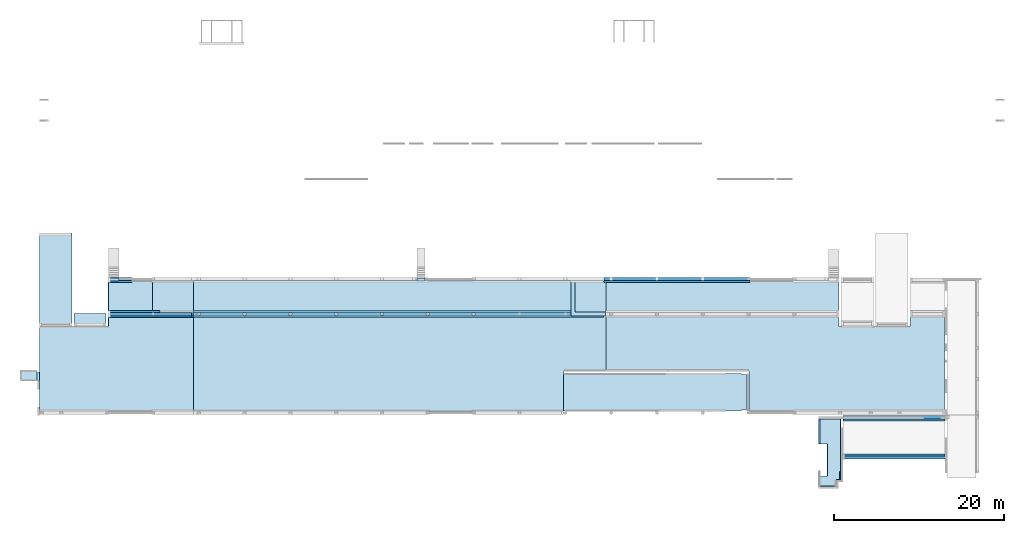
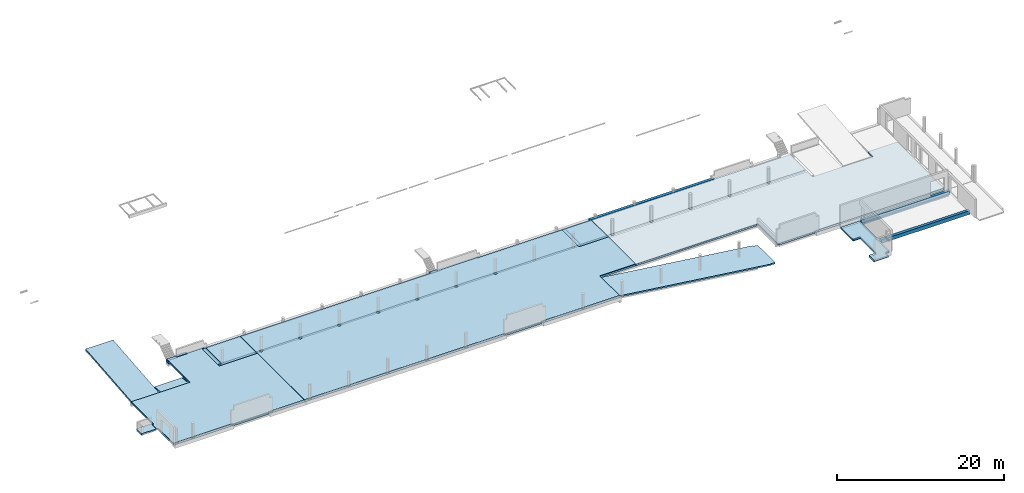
# One storey, part 4 of 9: 20 slabs, 7 beams, 9 openings.
"""IFC2X3 building model written with IfcOpenShell, lengths in millimetres."""

import ifcopenshell
import ifcopenshell.guid

model = None  # the IFC model being written
_history = None  # IfcOwnerHistory: only IFC2X3 demands one
_inside = {}  # id of a spatial element -> (the spatial element, [elements in it])
_under = {}  # id of a project, library or spatial element -> (it, [spatial elements below it])
_declared = {}  # id of a project -> (the project, [libraries it declares])
_typed = {}  # id of a type object -> (the type object, [elements of that type])
_made_of = {}  # id of a material, layer set ... -> (it, [elements and type objects made of it])


def new_model(schema):
    """Start an empty IFC model of exactly this schema.

    Asked for "IFC4X3", IfcOpenShell would pick the latest addendum, in which some entities
    have other attributes; the version numbers below select the first issue.
    IFC2X3 requires an IfcOwnerHistory on every rooted entity: one is made here for all.
    """
    global model, _history
    if schema == "IFC4X3":
        model = ifcopenshell.file(schema_version=(4, 3, 0, 0))
    else:
        model = ifcopenshell.file(schema=schema)
    _inside.clear()
    _under.clear()
    _declared.clear()
    _typed.clear()
    _made_of.clear()
    _history = None
    if model.schema == "IFC2X3":
        org = make("IfcOrganization", Name="unknown")
        user = make(
            "IfcPersonAndOrganization",
            ThePerson=make("IfcPerson", FamilyName="unknown"),
            TheOrganization=org,
        )
        app = make(
            "IfcApplication",
            ApplicationDeveloper=org,
            Version="unknown",
            ApplicationFullName="unknown",
            ApplicationIdentifier="unknown",
        )
        _history = make(
            "IfcOwnerHistory",
            OwningUser=user,
            OwningApplication=app,
            ChangeAction="ADDED",
            CreationDate=0,
        )
    return model


def make(cls, **values):
    """One entity of the class cls with the attributes given. An attribute that is None is left unset."""
    return model.create_entity(
        cls, **{name: value for name, value in values.items() if value is not None}
    )


def entity(cls, *values):
    """Any entity or typed value of the class cls, its attributes in the order of the schema. None: left unset."""
    e = model.create_entity(cls)
    for i, value in enumerate(values):
        if value is not None:
            e[i] = value
    return e


def rooted(cls, **values):
    """An entity with a GlobalId (a new one), such as an element, a storey or a relation."""
    return make(cls, GlobalId=ifcopenshell.guid.new(), OwnerHistory=_history, **values)


def si_unit(unit_type, name, prefix=None):
    """IfcSIUnit, for example si_unit("LENGTHUNIT", "METRE", prefix="MILLI")."""
    return make("IfcSIUnit", UnitType=unit_type, Prefix=prefix, Name=name)


def converted_unit(unit_type, name, factor, base, dimensions=None, offset=None):
    """IfcConversionBasedUnit, such as the inch: factor (a typed value) times the base unit."""
    return make(
        "IfcConversionBasedUnit"
        if offset is None
        else "IfcConversionBasedUnitWithOffset",
        ConversionOffset=offset,
        Dimensions=None
        if dimensions is None
        else entity("IfcDimensionalExponents", *dimensions),
        UnitType=unit_type,
        Name=name,
        ConversionFactor=make(
            "IfcMeasureWithUnit", ValueComponent=factor, UnitComponent=base
        ),
    )


def derived_unit(unit_type, elements):
    """IfcDerivedUnit: a product of units, each with its exponent."""
    return make(
        "IfcDerivedUnit",
        Elements=[
            make("IfcDerivedUnitElement", Unit=unit, Exponent=power)
            for unit, power in elements
        ],
        UnitType=unit_type,
    )


def assignment(units):
    """IfcUnitAssignment: the units of a project."""
    return None if units is None else make("IfcUnitAssignment", Units=units)


def point(xyz):
    """IfcCartesianPoint."""
    return None if xyz is None else make("IfcCartesianPoint", Coordinates=xyz)


def direction(xyz):
    """IfcDirection."""
    return None if xyz is None else make("IfcDirection", DirectionRatios=xyz)


def frame(location, z_axis=None, x_axis=None):
    """IfcAxis2Placement3D, a coordinate frame: its origin and axes. An axis left out is left unset."""
    return make(
        "IfcAxis2Placement3D",
        Location=point(location),
        Axis=direction(z_axis),
        RefDirection=direction(x_axis),
    )


def frame_2d(location, x_axis=None):
    """IfcAxis2Placement2D, a coordinate frame in the plane: its origin and x axis."""
    return make(
        "IfcAxis2Placement2D", Location=point(location), RefDirection=direction(x_axis)
    )


def origin():
    """The frame at (0, 0, 0) with its axes left unset."""
    return frame((0.0, 0.0, 0.0))


def origin_2d_with_axis():
    """The frame at (0, 0) in the plane with the x axis (1, 0) written out."""
    return frame_2d((0.0, 0.0), x_axis=(1.0, 0.0))


def place(relative_to, where):
    """IfcLocalPlacement: puts the frame where relative to a parent placement (None: the world)."""
    return make(
        "IfcLocalPlacement", PlacementRelTo=relative_to, RelativePlacement=where
    )


def context(
    kind, dimensions, precision=None, world=None, true_north=None, identifier=None
):
    """IfcGeometricRepresentationContext, for example the 3D "Model" context."""
    return make(
        "IfcGeometricRepresentationContext",
        ContextIdentifier=identifier,
        ContextType=kind,
        CoordinateSpaceDimension=dimensions,
        Precision=precision,
        WorldCoordinateSystem=world,
        TrueNorth=true_north,
    )


def subcontext(parent, identifier, kind, view, scale=None):
    """IfcGeometricRepresentationSubContext, for example "Body" below "Model"."""
    return make(
        "IfcGeometricRepresentationSubContext",
        ContextIdentifier=identifier,
        ContextType=kind,
        ParentContext=parent,
        TargetScale=scale,
        TargetView=view,
    )


def project(units=None, contexts=None):
    """IfcProject with its units and contexts."""
    return rooted(
        "IfcProject",
        Name="project",
        RepresentationContexts=contexts,
        UnitsInContext=assignment(units),
    )


def spatial(cls, under=None, at=None, **own):
    """A site, building, storey or space (cls), placed at a placement, below another one or the project."""
    s = rooted(cls, ObjectPlacement=at, **own)
    if under is not None:
        _under.setdefault(under.id(), (under, []))[1].append(s)
    return s


def polyline(points):
    """IfcPolyline through the points."""
    return make("IfcPolyline", Points=[point(p) for p in points])


def circle_curve(where, radius):
    """IfcCircle in the frame where."""
    return make("IfcCircle", Position=where, Radius=radius)


def parameter(value):
    """IfcParameterValue: where a trimmed curve begins or ends, as a parameter of its basis curve."""
    return model.create_entity("IfcParameterValue", value)


def trimmed(basis, trim1, trim2, sense, master):
    """IfcTrimmedCurve: the piece of a basis curve between two trims."""
    return make(
        "IfcTrimmedCurve",
        BasisCurve=basis,
        Trim1=trim1,
        Trim2=trim2,
        SenseAgreement=sense,
        MasterRepresentation=master,
    )


def segment(curve, same_sense, transition):
    """IfcCompositeCurveSegment."""
    return make(
        "IfcCompositeCurveSegment",
        Transition=transition,
        SameSense=same_sense,
        ParentCurve=curve,
    )


def composite_curve(segments, self_intersect=None):
    """IfcCompositeCurve: segments joined end to end."""
    return make("IfcCompositeCurve", Segments=segments, SelfIntersect=self_intersect)


def profile(cls, at=None, kind="AREA", **sizes):
    """A parametric profile (cls). Its sizes go by their IFC names, for example OverallWidth=200.0."""
    return make(cls, ProfileType=kind, Position=at, **sizes)


def rectangle(**sizes):
    """IfcRectangleProfileDef."""
    return profile("IfcRectangleProfileDef", **sizes)


def circle(**sizes):
    """IfcCircleProfileDef."""
    return profile("IfcCircleProfileDef", **sizes)


def outline(outer, holes=None, kind="AREA"):
    """IfcArbitraryClosedProfileDef: a profile drawn as a closed curve; with holes, ...WithVoids."""
    if holes is None:
        return make("IfcArbitraryClosedProfileDef", ProfileType=kind, OuterCurve=outer)
    return make(
        "IfcArbitraryProfileDefWithVoids",
        ProfileType=kind,
        OuterCurve=outer,
        InnerCurves=holes,
    )


def extrude(swept, where, along, depth):
    """IfcExtrudedAreaSolid: the profile swept, set in the frame where, extruded along a direction by depth."""
    return make(
        "IfcExtrudedAreaSolid",
        SweptArea=swept,
        Position=where,
        ExtrudedDirection=direction(along),
        Depth=depth,
    )


def clip(a, b, op="DIFFERENCE"):
    """IfcBooleanClippingResult: the solid a cut by the half space b."""
    return make(
        "IfcBooleanClippingResult", Operator=op, FirstOperand=a, SecondOperand=b
    )


def halfspace(plane, agree):
    """IfcHalfSpaceSolid: all space on one side of the plane z = 0 of the frame plane."""
    return make(
        "IfcHalfSpaceSolid",
        BaseSurface=make("IfcPlane", Position=plane),
        AgreementFlag=agree,
    )


def faces_of(points, faces, orient=None, outer=None):
    """IfcFace entities. A face is a list of loops; a loop is a list of indices into points, from 0.

    orient and outer hold one flag for each loop. By default every Orientation is true, the
    first loop of a face is its IfcFaceOuterBound and the others are IfcFaceBound.
    """
    made = []
    for i, loops in enumerate(faces):
        bounds = []
        for j, loop in enumerate(loops):
            is_outer = j == 0 if outer is None else outer[i][j]
            bounds.append(
                make(
                    "IfcFaceOuterBound" if is_outer else "IfcFaceBound",
                    Bound=make("IfcPolyLoop", Polygon=[points[k] for k in loop]),
                    Orientation=True if orient is None else orient[i][j],
                )
            )
        made.append(make("IfcFace", Bounds=bounds))
    return made


def faceted_brep(points, faces, orient=None, outer=None, voids=None):
    """IfcFacetedBrep: a solid bounded by flat faces; with voids (closed shells), ...WithVoids."""
    shared = [point(p) for p in points]
    hull = make("IfcClosedShell", CfsFaces=faces_of(shared, faces, orient, outer))
    if voids is None:
        return make("IfcFacetedBrep", Outer=hull)
    return make(
        "IfcFacetedBrepWithVoids",
        Outer=hull,
        Voids=[
            make(cls, CfsFaces=faces_of(shared, fs, o, b)) for cls, fs, o, b in voids
        ],
    )


def shape(context_of_items, identifier, shape_type, items):
    """IfcShapeRepresentation: the items that make up one representation, for example the "Body"."""
    return make(
        "IfcShapeRepresentation",
        ContextOfItems=context_of_items,
        RepresentationIdentifier=identifier,
        RepresentationType=shape_type,
        Items=items,
    )


def material(Name=None, Category=None):
    """IfcMaterial."""
    return make("IfcMaterial", Name=Name, Category=Category)


def layer(
    of_material, thickness, ventilated=None, Name=None, Category=None, Priority=None
):
    """IfcMaterialLayer: one layer of a wall or slab, of a material (None: an air gap)."""
    return make(
        "IfcMaterialLayer",
        Material=of_material,
        LayerThickness=thickness,
        IsVentilated=ventilated,
        Name=Name,
        Category=Category,
        Priority=Priority,
    )


def layer_set(layers, Name=None):
    """IfcMaterialLayerSet."""
    return make("IfcMaterialLayerSet", MaterialLayers=layers, LayerSetName=Name)


def layer_usage(for_layer_set, set_direction, sense, offset, extent=None):
    """IfcMaterialLayerSetUsage: how a layer set lies in its element."""
    return make(
        "IfcMaterialLayerSetUsage",
        ForLayerSet=for_layer_set,
        LayerSetDirection=set_direction,
        DirectionSense=sense,
        OffsetFromReferenceLine=offset,
        ReferenceExtent=extent,
    )


def made_of(thing, what):
    """Note that an element or type object is made of a material, layer set ...; save() writes the relation."""
    if what is not None:
        _made_of.setdefault(what.id(), (what, []))[1].append(thing)
    return thing


def type_object(cls, material=None, **own):
    """A type object (cls), such as IfcWallType, which elements share."""
    return made_of(rooted(cls, **own), material)


def element(
    cls,
    number,
    at=None,
    inside=None,
    cuts=None,
    type_object=None,
    material=None,
    context=None,
    identifier="Body",
    shape_type=None,
    held_by="IfcProductDefinitionShape",
    body=None,
    shapes=None,
    **own,
):
    """One element of the class cls, such as IfcWall. Its Tag is "e" and its number.

    at: its placement. inside: the storey or other place that contains it. cuts: it is an
    opening in that element (IfcRelVoidsElement). A single representation is given by context,
    identifier, shape_type and body (its items); several are given by shapes. held_by: the class
    of the entity that holds the representations. save() writes the other relations.
    """
    e = rooted(cls, Tag="e%d" % number, ObjectPlacement=at, **own)
    if body is not None:
        shapes = [shape(context, identifier, shape_type, body)]
    if shapes is not None:
        e.Representation = make(held_by, Representations=shapes)
    if inside is not None:
        _inside.setdefault(inside.id(), (inside, []))[1].append(e)
    if cuts is not None:
        rooted(
            "IfcRelVoidsElement", RelatingBuildingElement=cuts, RelatedOpeningElement=e
        )
    if type_object is not None:
        _typed.setdefault(type_object.id(), (type_object, []))[1].append(e)
    return made_of(e, material)


def aggregate(whole, parts):
    """IfcRelAggregates: a whole, such as a stair, and the parts it consists of."""
    return rooted("IfcRelAggregates", RelatingObject=whole, RelatedObjects=parts)


def save(model, path):
    """Write the relations noted so far, then the file.

    IfcRelAggregates (storeys below a building ...), IfcRelContainedInSpatialStructure (elements
    in a storey), IfcRelDefinesByType, IfcRelAssociatesMaterial and IfcRelDeclares: one each for
    every whole, place, type object, material and project.
    """
    for whole, parts in _under.values():
        aggregate(whole, parts)
    for where, things in _inside.values():
        rooted(
            "IfcRelContainedInSpatialStructure",
            RelatedElements=things,
            RelatingStructure=where,
        )
    for kind, things in _typed.values():
        rooted("IfcRelDefinesByType", RelatedObjects=things, RelatingType=kind)
    for what, things in _made_of.values():
        rooted("IfcRelAssociatesMaterial", RelatedObjects=things, RelatingMaterial=what)
    for by, libraries in _declared.values():
        rooted("IfcRelDeclares", RelatingContext=by, RelatedDefinitions=libraries)
    model.write(path)


model = new_model("IFC2X3")

# Units and contexts
model_context = context("Model", 3, precision=0.01, world=origin(), true_north=direction((6.12303176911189e-17, 1.0)))
body_context = subcontext(model_context, "Body", "Model", "MODEL_VIEW")
ifc_project = project(units=[si_unit("LENGTHUNIT", "METRE", prefix="MILLI"), si_unit("AREAUNIT", "SQUARE_METRE"), si_unit("VOLUMEUNIT", "CUBIC_METRE"), converted_unit("PLANEANGLEUNIT", "DEGREE", entity("IfcRatioMeasure", 0.0174532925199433), si_unit("PLANEANGLEUNIT", "RADIAN"), dimensions=[0, 0, 0, 0, 0, 0, 0]), si_unit("MASSUNIT", "GRAM", prefix="KILO"), derived_unit("MASSDENSITYUNIT", [(si_unit("MASSUNIT", "GRAM", prefix="KILO"), 1), (si_unit("LENGTHUNIT", "METRE"), -3)]), si_unit("TIMEUNIT", "SECOND"), si_unit("FREQUENCYUNIT", "HERTZ"), si_unit("THERMODYNAMICTEMPERATUREUNIT", "DEGREE_CELSIUS"), derived_unit("THERMALTRANSMITTANCEUNIT", [(si_unit("MASSUNIT", "GRAM", prefix="KILO"), 1), (si_unit("THERMODYNAMICTEMPERATUREUNIT", "KELVIN"), -1), (si_unit("TIMEUNIT", "SECOND"), -3)]), derived_unit("VOLUMETRICFLOWRATEUNIT", [(si_unit("LENGTHUNIT", "METRE"), 3), (si_unit("TIMEUNIT", "SECOND"), -1)]), si_unit("ELECTRICCURRENTUNIT", "AMPERE"), si_unit("ELECTRICVOLTAGEUNIT", "VOLT"), si_unit("POWERUNIT", "WATT"), si_unit("FORCEUNIT", "NEWTON", prefix="KILO"), si_unit("ILLUMINANCEUNIT", "LUX"), si_unit("LUMINOUSFLUXUNIT", "LUMEN"), si_unit("LUMINOUSINTENSITYUNIT", "CANDELA"), derived_unit("USERDEFINED", [(si_unit("MASSUNIT", "GRAM", prefix="KILO"), -1), (si_unit("LENGTHUNIT", "METRE"), -2), (si_unit("TIMEUNIT", "SECOND"), 3), (si_unit("LUMINOUSFLUXUNIT", "LUMEN"), 1)]), derived_unit("LINEARVELOCITYUNIT", [(si_unit("LENGTHUNIT", "METRE"), 1), (si_unit("TIMEUNIT", "SECOND"), -1)]), si_unit("PRESSUREUNIT", "PASCAL"), derived_unit("USERDEFINED", [(si_unit("LENGTHUNIT", "METRE"), -2), (si_unit("MASSUNIT", "GRAM", prefix="KILO"), 1), (si_unit("TIMEUNIT", "SECOND"), -2)])], contexts=[model_context])

# Site, building, storey
site_placement = place(None, origin())
site = spatial("IfcSite", under=ifc_project, at=site_placement, Name="Default", CompositionType="ELEMENT")
building_placement = place(site_placement, origin())
building = spatial("IfcBuilding", under=site, at=building_placement, Name="niet gebruiken", CompositionType="ELEMENT")
storey_placement = place(building_placement, frame((0.0, 0.0, 2770.0)))
storey = spatial("IfcBuildingStorey", under=building, at=storey_placement, Name="00a eerste tussenverdieping", CompositionType="ELEMENT", Elevation=2770.00000000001)

# Beams
ifc_material_1 = material(Name="NLRS_h2_staal")
beam_type_1 = type_object("IfcBeamType", Name="NLRS_28.11_SF_WPB_stalen ligger hoekprofiel gelijkzijdig_gen:ligger gelijzijdig hoekprofiel LEQU_150x150x15", PredefinedType="BEAM")
beam_1_placement = place(storey_placement, frame((102632.5, 1300.0, 1430.0), z_axis=(0.0, 0.0, 1.0), x_axis=(0.0, 1.0, 0.0)))
element("IfcBeam", 1, at=beam_1_placement, inside=storey, type_object=beam_type_1, material=ifc_material_1, Name="NLRS_28.11_SF_WPB_stalen ligger hoekprofiel gelijkzijdig_gen:ligger gelijzijdig hoekprofiel LEQU_150x150x15", ObjectType="NLRS_28.11_SF_WPB_stalen ligger hoekprofiel gelijkzijdig_gen:ligger gelijzijdig hoekprofiel LEQU_150x150x15", context=body_context, shape_type="SweptSolid", body=[
    extrude(outline(composite_curve([segment(polyline([(-93.3333333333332, -56.6666666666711), (56.6666666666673, -56.6666666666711)]), True, "CONTINUOUS"), segment(polyline([(56.6666666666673, -56.6666666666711), (56.6666666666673, 93.3333333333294)]), True, "CONTINUOUS"), segment(polyline([(56.6666666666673, 93.3333333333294), (49.6666666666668, 93.3333333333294)]), True, "CONTINUOUS"), segment(trimmed(circle_curve(frame_2d((49.666666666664, 85.3333333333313), x_axis=(0.0, 1.0)), 7.99999999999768), [parameter(0.0)], [parameter(90.0000000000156)], True, "PARAMETER"), True, "CONTINUOUS"), segment(polyline([(41.6666666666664, 85.3333333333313), (41.6666666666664, -25.6666666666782)]), True, "CONTINUOUS"), segment(trimmed(circle_curve(frame_2d((25.6666666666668, -25.6666666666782), x_axis=(1.0, 0.0)), 15.9999999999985), [parameter(269.999999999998)], [parameter(0.0)], True, "PARAMETER"), False, "CONTINUOUS"), segment(polyline([(25.6666666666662, -41.6666666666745), (-85.3333333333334, -41.6666666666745)]), True, "CONTINUOUS"), segment(trimmed(circle_curve(frame_2d((-85.3333333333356, -49.6666666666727), x_axis=(0.0, 1.0)), 7.99999999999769), [parameter(0.0)], [parameter(90.0000000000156)], True, "PARAMETER"), True, "CONTINUOUS"), segment(polyline([(-93.3333333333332, -49.6666666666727), (-93.3333333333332, -56.6666666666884)]), True, "CONTINUOUS")], self_intersect=False)), frame((0.0, 14.1666666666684, 56.6666666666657), z_axis=(1.0, 0.0, 0.0), x_axis=(0.0, 0.0, -1.0)), (0.0, 0.0, 1.0), 940.000000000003),
])
ifc_material_2 = material(Name="NLRS_f2_beton prefab")
beam_type_2 = type_object("IfcBeamType", Name="NLRS_28.11_SF_WPB_prefabbeton balk enkele sponning_gen:600x540/200x200", PredefinedType="BEAM")
beam_2_placement = place(storey_placement, frame((16345.0, 24576.0, -530.0)))
element("IfcBeam", 2, at=beam_2_placement, inside=storey, type_object=beam_type_2, material=ifc_material_2, Name="NLRS_28.11_SF_WPB_prefabbeton balk enkele sponning_gen:600x540/200x200", ObjectType="NLRS_28.11_SF_WPB_prefabbeton balk enkele sponning_gen:600x540/200x200", context=body_context, shape_type="Brep", body=[
    faceted_brep([(0.0, 600.0, 0.0), (0.0, 0.0, 0.0), (0.0, 0.0, 200.0), (0.0, 200.0, 200.0), (0.0, 200.0, 390.0), (0.0, 600.0, 390.0), (2755.0, 200.0, 200.0), (2755.0, 0.0, 200.0), (2755.0, 0.0, 0.0), (2755.0, 600.0, 0.0), (2755.0, 600.0, 540.0), (2755.0, 200.0, 540.0), (2755.0, 200.0, 530.0), (2755.0, 200.0, 460.0), (1250.0, 600.0, 540.0), (1250.0, 200.0, 540.0), (1250.0, 200.0, 530.0), (1250.0, 200.0, 460.0), (1250.0, 200.0, 390.0), (1250.0, 600.0, 390.0)], [[[0, 1, 2, 3, 4, 5]], [[6, 7, 8, 9, 10, 11, 12, 13]], [[11, 10, 14, 15]], [[3, 6, 13, 12, 11, 15, 16, 17, 18, 4]], [[3, 2, 7, 6]], [[2, 1, 8, 7]], [[1, 0, 9, 8]], [[10, 9, 0, 5, 19, 14]], [[15, 14, 19, 18, 17, 16]], [[18, 19, 5, 4]]]),
])
beam_3_placement = place(storey_placement, frame((74750.0, 24576.0, -530.0)))
element("IfcBeam", 3, at=beam_3_placement, inside=storey, type_object=beam_type_2, material=ifc_material_2, Name="NLRS_28.11_SF_WPB_prefabbeton balk enkele sponning_gen:600x540/200x200", ObjectType="NLRS_28.11_SF_WPB_prefabbeton balk enkele sponning_gen:600x540/200x200", context=body_context, shape_type="Brep", body=[
    faceted_brep([(0.0, 600.0, 0.0), (0.0, 0.0, 0.0), (0.0, 0.0, 200.0), (0.0, 200.0, 200.0), (0.0, 200.0, 460.0), (0.0, 200.0, 530.0), (0.0, 200.0, 540.0), (0.0, 600.0, 540.0), (17250.0, 200.0, 200.0), (17250.0, 0.0, 200.0), (17250.0, 0.0, 0.0), (17250.0, 600.0, 0.0), (17250.0, 600.0, 540.0), (17250.0, 200.0, 540.0), (17250.0, 200.0, 530.0), (17250.0, 250.0, 530.0), (17250.0, 250.0, 460.0), (17250.0, 200.0, 460.0), (16850.0, 200.0, 460.0), (16850.0, 200.0, 530.0), (16850.0, 250.0, 460.0), (16850.0, 250.0, 530.0)], [[[0, 1, 2, 3, 4, 5, 6, 7]], [[8, 9, 10, 11, 12, 13, 14, 15, 16, 17]], [[7, 6, 13, 12]], [[13, 6, 5, 4, 3, 8, 17, 18, 19, 14]], [[3, 2, 9, 8]], [[2, 1, 10, 9]], [[1, 0, 11, 10]], [[0, 7, 12, 11]], [[16, 20, 18, 17]], [[20, 21, 19, 18]], [[21, 20, 16, 15]], [[21, 15, 14, 19]]]),
])
beam_type_3 = type_object("IfcBeamType", Name="NLRS_28.11_SF_WPB_prefabbeton balk dubbele sponning_gen:800x460/200x260/200x260", PredefinedType="BEAM")
beam_4_placement = place(storey_placement, frame((26150.0, 20446.0, -530.0)))
element("IfcBeam", 4, at=beam_4_placement, inside=storey, type_object=beam_type_3, material=ifc_material_2, Name="NLRS_28.11_SF_WPB_prefabbeton balk dubbele sponning_gen:800x460/200x260/200x260", ObjectType="NLRS_28.11_SF_WPB_prefabbeton balk dubbele sponning_gen:800x460/200x260/200x260", context=body_context, shape_type="Brep", body=[
    faceted_brep([(0.0, 600.0, 460.0), (0.0, 600.0, 0.0), (0.0, 0.0, 0.0), (0.0, 0.0, 200.0), (0.0, 200.0, 200.0), (0.0, 200.0, 460.0), (48580.0, 600.0, 460.0), (48580.0, 200.0, 460.0), (48580.0, 200.0, 200.0), (48580.0, 0.0, 200.0), (48580.0, 0.0, 0.0), (48580.0, 800.0, 0.0), (48580.0, 800.0, 200.0), (48580.0, 600.0, 200.0), (44700.0, 200.0, 460.0), (220.0, 600.0, 200.0), (220.0, 600.0, 0.0), (220.0, 800.0, 200.0), (220.0, 800.0, 0.0)], [[[0, 1, 2, 3, 4, 5]], [[6, 7, 8, 9, 10, 11, 12, 13]], [[6, 0, 5, 14, 7]], [[3, 2, 10, 9]], [[6, 13, 15, 16, 1, 0]], [[13, 12, 17, 15]], [[5, 4, 8, 7, 14]], [[4, 3, 9, 8]], [[12, 11, 18, 17]], [[11, 10, 2, 1, 16, 18]], [[16, 15, 17, 18]]]),
])
beam_5_placement = place(storey_placement, frame((16345.0, 20446.0, -530.0)))
element("IfcBeam", 5, at=beam_5_placement, inside=storey, type_object=beam_type_3, material=ifc_material_2, Name="NLRS_28.11_SF_WPB_prefabbeton balk dubbele sponning_gen:800x460/200x260/200x260", ObjectType="NLRS_28.11_SF_WPB_prefabbeton balk dubbele sponning_gen:800x460/200x260/200x260", context=body_context, shape_type="Brep", body=[
    faceted_brep([(0.0, 600.0, 460.0), (0.0, 600.0, 200.0), (0.0, 800.0, 200.0), (0.0, 800.0, 0.0), (0.0, 0.0, 0.0), (0.0, 0.0, 200.0), (0.0, 200.0, 200.0), (0.0, 200.0, 460.0), (9785.0, 600.0, 0.0), (9785.0, 600.0, 460.0), (9785.0, 200.0, 460.0), (9785.0, 200.0, 200.0), (9785.0, 0.0, 200.0), (9785.0, 0.0, 0.0), (6105.0, 600.0, 0.0), (6105.0, 600.0, 200.0), (6105.0, 800.0, 200.0), (6105.0, 800.0, 0.0)], [[[0, 1, 2, 3, 4, 5, 6, 7]], [[8, 9, 10, 11, 12, 13]], [[9, 0, 7, 10]], [[5, 4, 13, 12]], [[1, 0, 9, 8, 14, 15]], [[2, 1, 15, 16]], [[7, 6, 11, 10]], [[6, 5, 12, 11]], [[3, 2, 16, 17]], [[4, 3, 17, 14, 8, 13]], [[15, 14, 17, 16]]]),
])
beam_type_4 = type_object("IfcBeamType", Name="NLRS_28.11_SF_WPB_prefabbeton balk enkele sponning_gen:600x530/200x200", PredefinedType="BEAM")
beam_6_placement = place(storey_placement, frame((102945.0, 8271.0, -530.0)))
element("IfcBeam", 6, at=beam_6_placement, inside=storey, type_object=beam_type_4, material=ifc_material_2, Name="NLRS_28.11_SF_WPB_prefabbeton balk enkele sponning_gen:600x530/200x200", ObjectType="NLRS_28.11_SF_WPB_prefabbeton balk enkele sponning_gen:600x530/200x200", context=body_context, shape_type="Brep", body=[
    faceted_brep([(0.0, 600.0, 0.0), (0.0, 0.0, 0.0), (0.0, 0.0, 200.0), (0.0, 200.0, 200.0), (0.0, 200.0, 460.0), (0.0, 200.0, 530.0), (0.0, 600.0, 530.0), (12255.0, 200.0, 530.0), (12255.0, 200.0, 200.0), (12255.0, 180.0, 200.0), (12255.0, 180.0, 0.0), (12255.0, 600.0, 0.0), (12255.0, 600.0, 530.0), (12005.0, 200.0, 530.0), (12005.0, 0.0, 200.0), (12005.0, 180.0, 200.0), (12005.0, 0.0, 0.0), (12005.0, 180.0, 0.0)], [[[0, 1, 2, 3, 4, 5, 6]], [[7, 8, 9, 10, 11, 12]], [[6, 5, 13, 7, 12]], [[8, 7, 13, 5, 4, 3]], [[3, 2, 14, 15, 9, 8]], [[2, 1, 16, 14]], [[1, 0, 11, 10, 17, 16]], [[0, 6, 12, 11]], [[17, 15, 14, 16]], [[15, 17, 10, 9]]]),
])
beam_7_placement = place(storey_placement, frame((102945.0, 3740.0, -530.0)))
element("IfcBeam", 7, at=beam_7_placement, inside=storey, type_object=beam_type_4, material=ifc_material_2, Name="NLRS_28.11_SF_WPB_prefabbeton balk enkele sponning_gen:600x530/200x200", ObjectType="NLRS_28.11_SF_WPB_prefabbeton balk enkele sponning_gen:600x530/200x200", context=body_context, shape_type="Brep", body=[
    faceted_brep([(0.0, 600.0, 0.0), (0.0, 0.0, 0.0), (0.0, 0.0, 530.0), (0.0, 400.0, 530.0), (0.0, 400.0, 460.0), (0.0, 400.0, 200.0), (0.0, 600.0, 200.0), (12255.0, 400.0, 200.0), (12255.0, 400.0, 530.0), (12255.0, 0.0, 530.0), (12255.0, 0.0, 0.0), (12255.0, 420.0, 0.0), (12255.0, 420.0, 200.0), (12005.0, 400.0, 530.0), (12005.0, 420.0, 200.0), (12005.0, 600.0, 200.0), (12005.0, 600.0, 0.0), (12005.0, 420.0, 0.0)], [[[0, 1, 2, 3, 4, 5, 6]], [[7, 8, 9, 10, 11, 12]], [[3, 2, 9, 8, 13]], [[8, 7, 5, 4, 3, 13]], [[6, 5, 7, 12, 14, 15]], [[0, 6, 15, 16]], [[1, 0, 16, 17, 11, 10]], [[2, 1, 10, 9]], [[14, 17, 16, 15]], [[17, 14, 12, 11]]]),
])

# Slabs
ifc_layer_1 = layer(ifc_material_2, 255.0)
ifc_layer_set_1 = layer_set([ifc_layer_1], Name="Floor:NLRS_23.21_FL_kanaalplaat d=255_gen")
ifc_layer_usage_1 = layer_usage(ifc_layer_set_1, "AXIS3", "POSITIVE", 0.0)
slab_1_placement = place(storey_placement, origin())
element("IfcSlab", 8, at=slab_1_placement, inside=storey, material=ifc_layer_usage_1, Name="Floor:NLRS_23.21_FL_kanaalplaat d=255_gen", ObjectType="Floor:NLRS_23.21_FL_kanaalplaat d=255_gen", PredefinedType="FLOOR", context=body_context, shape_type="SweptSolid", body=[
    extrude(outline(polyline([(-4225.0, -9503.0), (5765.0, -9503.0), (5765.0, -1403.0), (6985.0, -1403.0), (6985.0, 8602.0), (-4225.0, 8602.0), (-4225.0, 3632.0), (-4300.0, 3632.0), (-4300.0, -1328.0), (-4225.0, -1328.0), (-4225.0, -9503.0)])), frame((17748.0, 13641.0, -70.0), z_axis=(0.0, 0.0, -1.0), x_axis=(0.0, 1.0, 0.0)), (0.0, 0.0, 1.0), 255.0),
])
ifc_layer_usage_2 = layer_usage(ifc_layer_set_1, "AXIS3", "POSITIVE", 0.0)
slab_2_placement = place(storey_placement, origin())
element("IfcSlab", 9, at=slab_2_placement, inside=storey, material=ifc_layer_usage_2, Name="Floor:NLRS_23.21_FL_kanaalplaat d=255_gen", ObjectType="Floor:NLRS_23.21_FL_kanaalplaat d=255_gen", PredefinedType="FLOOR", context=body_context, shape_type="SweptSolid", body=[
    extrude(outline(polyline([(-3173.0, -30570.0), (8037.0, -30570.0), (8037.0, 18010.0), (1557.0, 18010.0), (1557.0, 13040.0), (-3173.0, 13040.0), (-3173.0, 2240.0), (-3248.0, 2240.0), (-3248.0, -2720.0), (-3173.0, -2720.0), (-3173.0, -30570.0)])), frame((56940.0, 12589.0, -70.0), z_axis=(0.0, 0.0, -1.0), x_axis=(0.0, 1.0, 0.0)), (0.0, 0.0, 1.0), 255.0),
])
ifc_layer_usage_3 = layer_usage(ifc_layer_set_1, "AXIS3", "POSITIVE", 0.0)
slab_3_placement = place(storey_placement, origin())
element("IfcSlab", 10, at=slab_3_placement, inside=storey, material=ifc_layer_usage_3, Name="Floor:NLRS_23.21_FL_kanaalplaat d=255_gen", ObjectType="Floor:NLRS_23.21_FL_kanaalplaat d=255_gen", PredefinedType="FLOOR", context=body_context, shape_type="SweptSolid", body=[
    extrude(outline(polyline([(-565.329366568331, -22754.2856910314), (5915.05489442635, -22754.2856910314), (5915.05489442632, 4730.71430896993), (4695.05489442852, 4730.71430896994), (4695.05489442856, 13120.7143089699), (5915.05489442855, 13120.7143089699), (5915.05489442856, 17205.7143089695), (-5294.9451055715, 17205.7143089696), (-5294.94510557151, -744.285691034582), (-5369.94510557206, -744.285691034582), (-5369.94510557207, -5704.28569103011), (-5294.94510557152, -5704.28569103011), (-5294.94510557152, -5854.28585381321), (-565.329366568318, -5854.28585381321), (-565.329366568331, -22754.2856910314)])), frame((97724.2856910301, 14710.9451055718, -70.0), z_axis=(0.0, 0.0, -1.0), x_axis=(0.0, 1.0, 0.0)), (0.0, 0.0, 1.0), 255.0),
])
ifc_layer_usage_4 = layer_usage(ifc_layer_set_1, "AXIS3", "POSITIVE", 0.0)
slab_4_placement = place(storey_placement, origin())
element("IfcSlab", 11, at=slab_4_placement, inside=storey, material=ifc_layer_usage_4, Name="Floor:NLRS_23.21_FL_kanaalplaat d=255_gen", ObjectType="Floor:NLRS_23.21_FL_kanaalplaat d=255_gen", PredefinedType="FLOOR", context=body_context, shape_type="SweptSolid", body=[
    extrude(outline(polyline([(-2788.25000000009, -3258.75000000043), (901.749999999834, -3258.75000000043), (901.749999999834, -483.749999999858), (976.750000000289, -483.749999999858), (976.75000000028, 1776.25000000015), (909.749999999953, 1776.25000000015), (909.749999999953, 1966.25000000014), (-2788.25000000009, 1966.25000000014), (-2788.25000000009, -3258.75000000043)])), frame((19603.7499999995, 23854.2500000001, -70.0), z_axis=(0.0, 0.0, -1.0), x_axis=(0.0, 1.0, 0.0)), (0.0, 0.0, 1.0), 255.0),
])
ifc_layer_2 = layer(ifc_material_2, 200.0)
ifc_layer_set_2 = layer_set([ifc_layer_2], Name="Floor:NLRS_23.21_FL_kanaalplaat d=200_gen")
ifc_layer_usage_5 = layer_usage(ifc_layer_set_2, "AXIS3", "POSITIVE", 0.0)
slab_5_placement = place(storey_placement, origin())
element("IfcSlab", 12, at=slab_5_placement, inside=storey, material=ifc_layer_usage_5, Name="Floor:NLRS_23.21_FL_kanaalplaat d=200_gen", ObjectType="Floor:NLRS_23.21_FL_kanaalplaat d=200_gen", PredefinedType="FLOOR", context=body_context, shape_type="Clipping", body=[
    clip(clip(extrude(outline(polyline([(-2213.74999999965, -16010.0462647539), (2226.24999999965, -16010.0462647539), (2226.24999999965, 5121.60170182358), (2101.24999999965, 5121.60170182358), (2101.24999999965, 5766.84286110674), (-2113.74999999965, 5766.84286110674), (-2113.74999999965, 5121.60170182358), (-2213.74999999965, 5121.60170182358), (-2213.74999999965, -16010.0462647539)])), frame((85880.0, 11629.7500000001, -2107.03621475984), z_axis=(-0.127199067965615, 0.0, -0.991877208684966), x_axis=(0.0, 1.0, 0.0)), (0.0, 0.127199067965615, 0.991877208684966), 203.289137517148), halfspace(frame((91600.0, 11856.8064953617, -2840.57325179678), z_axis=(0.127199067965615, 0.0, 0.991877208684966), x_axis=(0.991877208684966, 0.0, -0.127199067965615)), False)), halfspace(frame((91600.0, 11856.8064953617, -3042.21111407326), z_axis=(-0.127199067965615, 0.0, -0.991877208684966), x_axis=(-0.991877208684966, 0.0, 0.127199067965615)), False)),
])
ifc_material_3 = material(Name="NLRS_f2_beton ihwg")
ifc_layer_3 = layer(ifc_material_3, 70.0)
ifc_layer_set_3 = layer_set([ifc_layer_3], Name="Floor:NLRS_23.21_FL_druklaag d=70 - gevlinderd en ingestrooid_gen")
ifc_layer_usage_6 = layer_usage(ifc_layer_set_3, "AXIS3", "POSITIVE", 0.0)
slab_6_placement = place(storey_placement, origin())
element("IfcSlab", 13, at=slab_6_placement, inside=storey, material=ifc_layer_usage_6, Name="Floor:NLRS_23.21_FL_druklaag d=70 - gevlinderd en ingestrooid_gen", ObjectType="Floor:NLRS_23.21_FL_druklaag d=70 - gevlinderd en ingestrooid_gen", PredefinedType="FLOOR", context=body_context, shape_type="SweptSolid", body=[
    extrude(outline(polyline([(-4690.45454545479, -8758.18181818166), (-3685.45454545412, -8758.18181818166), (-3685.45454545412, -8508.18181818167), (1729.54545454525, -8508.18181818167), (1729.54545454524, -408.181818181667), (7379.54545454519, -408.181818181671), (7379.54545454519, 861.818181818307), (7079.54545454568, 861.818181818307), (7079.54545454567, 2366.81818181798), (7154.54545454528, 2366.81818181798), (7154.54545454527, 4666.81818181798), (7079.54545454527, 4666.81818181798), (7079.54545454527, 4336.81818181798), (2929.54545454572, 4336.81818181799), (2929.54545454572, 9616.818181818), (-8300.45454545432, 9616.81818181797), (-8300.45454545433, 4666.81818181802), (-8375.45454545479, 4666.81818181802), (-8375.45454545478, -333.181818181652), (-8300.45454545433, -333.181818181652), (-8300.45454545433, -8508.18181818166), (-4690.45454545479, -8508.18181818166), (-4690.45454545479, -8758.18181818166)])), frame((16733.1818181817, 17696.4545454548, 0.0), z_axis=(0.0, 0.0, -1.0), x_axis=(0.0, 1.0, 0.0)), (0.0, 0.0, 1.0), 69.9999999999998),
])

# Slab, openings
ifc_layer_usage_7 = layer_usage(ifc_layer_set_3, "AXIS3", "POSITIVE", 0.0)
slab_7_placement = place(storey_placement, frame((26370.0, 9321.0, -70.0)))
slab_7 = element("IfcSlab", 14, at=slab_7_placement, inside=storey, material=ifc_layer_usage_7, Name="Floor:NLRS_23.21_FL_druklaag d=70 - gevlinderd en ingestrooid_gen", ObjectType="Floor:NLRS_23.21_FL_druklaag d=70 - gevlinderd en ingestrooid_gen", PredefinedType="FLOOR", context=body_context, shape_type="SweptSolid", body=[
    extrude(outline(polyline([(-3540.0, -7802.50000000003), (24290.0, -7802.5), (24290.0, 7577.49999999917), (-2050.0, 7577.4999999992), (-2050.0, 7877.50000000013), (-3020.0, 7877.50000000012), (-3020.0, 7652.4999999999), (-8540.0, 7652.49999999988), (-8540.0, 7577.49999999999), (-20190.0, 7577.49999999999), (-20190.0, 3447.49999999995), (-24290.0, 3447.49999999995), (-24290.0, -3052.49999999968), (-19320.0, -3052.49999999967), (-19320.0, -7802.50000000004), (-8540.0, -7802.50000000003), (-8540.0, -7877.50000000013), (-3540.0, -7877.50000000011), (-3540.0, -7802.50000000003)])), frame((24290.0, 7877.50000000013, 70.0), z_axis=(0.0, 0.0, -1.0), x_axis=(-1.0, 0.0, 0.0)), (0.0, 0.0, 1.0), 69.9999999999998),
])
opening_1_placement = place(slab_7_placement, frame((630.0, 11525.0, 70.0)))
element("IfcOpeningElement", 15, at=opening_1_placement, cuts=slab_7, Name="Floor:NLRS_23.21_FL_druklaag d=70 - gevlinderd en ingestrooid_gen:2", ObjectType="Opening", context=body_context, shape_type="SweptSolid", body=[
    extrude(circle(Radius=200.0, at=origin_2d_with_axis()), frame((0.0, 0.0, 0.0), z_axis=(0.0, 0.0, -1.0), x_axis=(1.0, 0.0, 0.0)), (0.0, 0.0, 1.0), 69.9999999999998),
])
opening_2_placement = place(slab_7_placement, frame((6030.0, 11525.0, 70.0)))
element("IfcOpeningElement", 16, at=opening_2_placement, cuts=slab_7, Name="Floor:NLRS_23.21_FL_druklaag d=70 - gevlinderd en ingestrooid_gen:3", ObjectType="Opening", context=body_context, shape_type="SweptSolid", body=[
    extrude(circle(Radius=200.0, at=origin_2d_with_axis()), frame((0.0, 0.0, 0.0), z_axis=(0.0, 0.0, -1.0), x_axis=(1.0, 0.0, 0.0)), (0.0, 0.0, 1.0), 69.9999999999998),
])
opening_3_placement = place(slab_7_placement, frame((11430.0, 11525.0, 70.0)))
element("IfcOpeningElement", 17, at=opening_3_placement, cuts=slab_7, Name="Floor:NLRS_23.21_FL_druklaag d=70 - gevlinderd en ingestrooid_gen:4", ObjectType="Opening", context=body_context, shape_type="SweptSolid", body=[
    extrude(circle(Radius=200.0, at=origin_2d_with_axis()), frame((0.0, 0.0, 0.0), z_axis=(0.0, 0.0, -1.0), x_axis=(1.0, 0.0, 0.0)), (0.0, 0.0, 1.0), 69.9999999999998),
])
opening_4_placement = place(slab_7_placement, frame((16830.0, 11525.0, 70.0)))
element("IfcOpeningElement", 18, at=opening_4_placement, cuts=slab_7, Name="Floor:NLRS_23.21_FL_druklaag d=70 - gevlinderd en ingestrooid_gen:5", ObjectType="Opening", context=body_context, shape_type="SweptSolid", body=[
    extrude(circle(Radius=200.0, at=origin_2d_with_axis()), frame((0.0, 0.0, 0.0), z_axis=(0.0, 0.0, -1.0), x_axis=(1.0, 0.0, 0.0)), (0.0, 0.0, 1.0), 69.9999999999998),
])
opening_5_placement = place(slab_7_placement, frame((22230.0, 11525.0, 70.0)))
element("IfcOpeningElement", 19, at=opening_5_placement, cuts=slab_7, Name="Floor:NLRS_23.21_FL_druklaag d=70 - gevlinderd en ingestrooid_gen:6", ObjectType="Opening", context=body_context, shape_type="SweptSolid", body=[
    extrude(circle(Radius=200.0, at=origin_2d_with_axis()), frame((0.0, 0.0, 0.0), z_axis=(0.0, 0.0, -1.0), x_axis=(1.0, 0.0, 0.0)), (0.0, 0.0, 1.0), 69.9999999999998),
])
opening_6_placement = place(slab_7_placement, frame((27630.0, 11525.0, 70.0)))
element("IfcOpeningElement", 20, at=opening_6_placement, cuts=slab_7, Name="Floor:NLRS_23.21_FL_druklaag d=70 - gevlinderd en ingestrooid_gen:7", ObjectType="Opening", context=body_context, shape_type="SweptSolid", body=[
    extrude(circle(Radius=200.0, at=origin_2d_with_axis()), frame((0.0, 0.0, 0.0), z_axis=(0.0, 0.0, -1.0), x_axis=(1.0, 0.0, 0.0)), (0.0, 0.0, 1.0), 69.9999999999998),
])
opening_7_placement = place(slab_7_placement, frame((33030.0, 11525.0, 70.0)))
element("IfcOpeningElement", 21, at=opening_7_placement, cuts=slab_7, Name="Floor:NLRS_23.21_FL_druklaag d=70 - gevlinderd en ingestrooid_gen:8", ObjectType="Opening", context=body_context, shape_type="SweptSolid", body=[
    extrude(circle(Radius=200.0, at=origin_2d_with_axis()), frame((0.0, 0.0, 0.0), z_axis=(0.0, 0.0, -1.0), x_axis=(1.0, 0.0, 0.0)), (0.0, 0.0, 1.0), 69.9999999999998),
])

# Slabs
ifc_layer_usage_8 = layer_usage(ifc_layer_set_1, "AXIS3", "POSITIVE", 0.0)
slab_8_placement = place(storey_placement, origin())
element("IfcSlab", 22, at=slab_8_placement, inside=storey, material=ifc_layer_usage_8, Name="Floor:NLRS_23.21_FL_kanaalplaat d=255_gen", ObjectType="Floor:NLRS_23.21_FL_kanaalplaat d=255_gen", PredefinedType="FLOOR", context=body_context, shape_type="SweptSolid", body=[
    extrude(outline(polyline([(-2786.25000000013, -16636.2500000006), (903.749999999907, -16636.2500000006), (903.749999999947, 413.750000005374), (978.750000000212, 413.750000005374), (978.75000000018, 5373.74999999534), (903.749999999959, 5373.74999999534), (903.749999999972, 10848.7499999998), (-2786.25000000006, 10848.7499999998), (-2786.25000000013, -16636.2500000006)])), frame((91606.2499999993, 23852.25, -70.0), z_axis=(0.0, 0.0, -1.0), x_axis=(0.0, 1.0, 0.0)), (0.0, 0.0, 1.0), 255.0),
])
ifc_layer_usage_9 = layer_usage(ifc_layer_set_1, "AXIS3", "POSITIVE", 0.0)
slab_9_placement = place(storey_placement, origin())
element("IfcSlab", 23, at=slab_9_placement, inside=storey, material=ifc_layer_usage_9, Name="Floor:NLRS_23.21_FL_kanaalplaat d=255_gen", ObjectType="Floor:NLRS_23.21_FL_kanaalplaat d=255_gen", PredefinedType="FLOOR", context=body_context, shape_type="SweptSolid", body=[
    extrude(outline(polyline([(-2786.25000000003, -26385.0), (903.750000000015, -26385.0), (903.750000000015, 1365.0), (978.750000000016, 1365.0), (978.749999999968, 6425.0), (903.750000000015, 6425.0), (903.750000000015, 18595.0), (-2786.25000000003, 18595.0), (-2786.25000000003, -26385.0)])), frame((52755.0, 23852.2499999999, -70.0), z_axis=(0.0, 0.0, -1.0), x_axis=(0.0, 1.0, 0.0)), (0.0, 0.0, 1.0), 255.0),
])
ifc_layer_4 = layer(ifc_material_2, 200.0)
ifc_layer_set_4 = layer_set([ifc_layer_4], Name="Floor:NLRS_23.21_FL_beton prefab d=200_gen")
ifc_layer_usage_10 = layer_usage(ifc_layer_set_4, "AXIS3", "POSITIVE", 0.0)
slab_10_placement = place(storey_placement, origin())
element("IfcSlab", 24, at=slab_10_placement, inside=storey, material=ifc_layer_usage_10, Name="Floor:NLRS_23.21_FL_beton prefab d=200_gen", ObjectType="Floor:NLRS_23.21_FL_beton prefab d=200_gen", PredefinedType="FLOOR", context=body_context, shape_type="SweptSolid", body=[
    extrude(rectangle(XDim=1260.0, YDim=2029.99999999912, at=frame_2d((0.0, 5.6843418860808e-13), x_axis=(1.0, 0.0))), frame((6940.0, 13636.0, 0.0), z_axis=(0.0, 0.0, -1.0), x_axis=(0.0, 1.0, 0.0)), (0.0, 0.0, 1.0), 200.0),
])
ifc_layer_5 = layer(ifc_material_3, 250.0)
ifc_layer_set_5 = layer_set([ifc_layer_5], Name="Floor:NLRS_23.21_FL_breedplaat d=70/250_opgeruwd_schil apart_gen")
ifc_layer_usage_11 = layer_usage(ifc_layer_set_5, "AXIS3", "POSITIVE", 0.0)
slab_11_placement = place(storey_placement, frame((12275.0, 19426.0, -401.246890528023)))
element("IfcSlab", 25, at=slab_11_placement, inside=storey, material=ifc_layer_usage_11, Name="Floor:NLRS_23.21_FL_breedplaat d=70/250_opgeruwd_schil apart_gen", ObjectType="Floor:NLRS_23.21_FL_breedplaat d=70/250_opgeruwd_schil apart_gen", PredefinedType="FLOOR", context=body_context, shape_type="SweptSolid", body=[
    extrude(rectangle(XDim=1507.48134316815, YDim=3799.99999999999, at=frame_2d((0.0, -753.740671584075), x_axis=(0.0, -1.0))), frame((1900.0, 1500.0, 251.246890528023), z_axis=(0.0, 0.0995037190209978, 0.995037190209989), x_axis=(1.0, 0.0, 0.0)), (0.0, 0.0995037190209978, -0.995037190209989), 251.246890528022),
])

# Slab, opening
ifc_layer_usage_12 = layer_usage(ifc_layer_set_5, "AXIS3", "POSITIVE", 0.0)
slab_12_placement = place(storey_placement, frame((8225.0, 19426.0, -251.062036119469)))
slab_12 = element("IfcSlab", 26, at=slab_12_placement, inside=storey, material=ifc_layer_usage_12, Name="Floor:NLRS_23.21_FL_breedplaat d=70/250_opgeruwd_schil apart_gen", ObjectType="Floor:NLRS_23.21_FL_breedplaat d=70/250_opgeruwd_schil apart_gen", PredefinedType="FLOOR", context=body_context, shape_type="SweptSolid", body=[
    extrude(rectangle(XDim=3799.99999999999, YDim=11049.0542581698, at=frame_2d((0.0, 5525.08843574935), x_axis=(-1.0, 0.0))), frame((1900.0, -0.558814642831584, 251.062036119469), z_axis=(0.0, -0.0941257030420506, 0.995560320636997), x_axis=(1.0, 0.0, 0.0)), (0.0, -0.0941257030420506, -0.995560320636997), 251.11486950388),
])
opening_8_placement = place(slab_12_placement, origin())
element("IfcOpeningElement", 27, at=opening_8_placement, cuts=slab_12, ObjectType="Opening", context=body_context, shape_type="SweptSolid", body=[
    extrude(rectangle(XDim=3760.0, YDim=380.0, at=origin_2d_with_axis()), frame((1900.0, 190.0, -214.437963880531)), (0.0, 0.0, 1.0), 250.0),
])

# Slabs
ifc_layer_usage_13 = layer_usage(ifc_layer_set_3, "AXIS3", "POSITIVE", 0.0)
slab_13_placement = place(storey_placement, origin())
element("IfcSlab", 28, at=slab_13_placement, inside=storey, material=ifc_layer_usage_13, Name="Floor:NLRS_23.21_FL_druklaag d=70 - gevlinderd en ingestrooid_gen", ObjectType="Floor:NLRS_23.21_FL_druklaag d=70 - gevlinderd en ingestrooid_gen", PredefinedType="FLOOR", context=body_context, shape_type="SweptSolid", body=[
    extrude(rectangle(XDim=4149.99999999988, YDim=4770.00000000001, at=origin_2d_with_axis()), frame((23955.0, 22701.0, 0.0), z_axis=(0.0, 0.0, -1.0), x_axis=(0.0, 1.0, 0.0)), (0.0, 0.0, 1.0), 69.9999999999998),
])
ifc_layer_usage_14 = layer_usage(ifc_layer_set_1, "AXIS3", "POSITIVE", 0.0)
slab_14_placement = place(storey_placement, origin())
element("IfcSlab", 29, at=slab_14_placement, inside=storey, material=ifc_layer_usage_14, Name="Floor:NLRS_23.21_FL_kanaalplaat d=255_gen", ObjectType="Floor:NLRS_23.21_FL_kanaalplaat d=255_gen", PredefinedType="FLOOR", context=body_context, shape_type="SweptSolid", body=[
    extrude(rectangle(XDim=3689.99999999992, YDim=4780.00000000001, at=origin_2d_with_axis()), frame((23960.0, 22911.0, -70.0), z_axis=(0.0, 0.0, -1.0), x_axis=(0.0, 1.0, 0.0)), (0.0, 0.0, 1.0), 255.0),
])
ifc_layer_usage_15 = layer_usage(ifc_layer_set_3, "AXIS3", "POSITIVE", 0.0)
slab_15_placement = place(storey_placement, origin())
element("IfcSlab", 30, at=slab_15_placement, inside=storey, material=ifc_layer_usage_15, Name="Floor:NLRS_23.21_FL_druklaag d=70 - gevlinderd en ingestrooid_gen", ObjectType="Floor:NLRS_23.21_FL_druklaag d=70 - gevlinderd en ingestrooid_gen", PredefinedType="FLOOR", context=body_context, shape_type="SweptSolid", body=[
    extrude(rectangle(XDim=4130.00000000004, YDim=4099.99999999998, at=frame_2d((0.0, -4.32009983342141e-12), x_axis=(1.0, 0.0))), frame((72900.0, 22711.0, 0.0), z_axis=(0.0, 0.0, -1.0), x_axis=(0.0, 1.0, 0.0)), (0.0, 0.0, 1.0), 69.9999999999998),
])
ifc_layer_usage_16 = layer_usage(ifc_layer_set_1, "AXIS3", "POSITIVE", 0.0)
slab_16_placement = place(storey_placement, origin())
element("IfcSlab", 31, at=slab_16_placement, inside=storey, material=ifc_layer_usage_16, Name="Floor:NLRS_23.21_FL_kanaalplaat d=255_gen", ObjectType="Floor:NLRS_23.21_FL_kanaalplaat d=255_gen", PredefinedType="FLOOR", context=body_context, shape_type="SweptSolid", body=[
    extrude(rectangle(XDim=3690.00000000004, YDim=3600.0, at=frame_2d((-2.1600499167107e-12, 0.0), x_axis=(1.0, 0.0))), frame((73150.0, 22911.0, -70.0), z_axis=(0.0, 0.0, -1.0), x_axis=(0.0, 1.0, 0.0)), (0.0, 0.0, 1.0), 255.0),
])

# Slab, opening
ifc_layer_6 = layer(ifc_material_3, 270.0)
ifc_layer_set_6 = layer_set([ifc_layer_6], Name="Floor:NLRS_23.21_FL_breedplaat d=70/270_schil apart_gen")
ifc_layer_usage_17 = layer_usage(ifc_layer_set_6, "AXIS3", "POSITIVE", 0.0)
slab_17_placement = place(storey_placement, frame((100060.0, 535.0, -270.0)))
slab_17 = element("IfcSlab", 32, at=slab_17_placement, inside=storey, material=ifc_layer_usage_17, Name="Floor:NLRS_23.21_FL_breedplaat d=70/270_schil apart_gen", ObjectType="Floor:NLRS_23.21_FL_breedplaat d=70/270_schil apart_gen", PredefinedType="FLOOR", context=body_context, shape_type="SweptSolid", body=[
    extrude(outline(polyline([(307.498918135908, 994.500000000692), (1307.50000000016, 994.500000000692), (1307.50000000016, 3980.49999999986), (-1307.5000000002, 3980.49999999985), (-1307.50000000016, -3215.49999999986), (-757.500278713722, -3215.49999999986), (-757.500278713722, -3980.49999999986), (1307.50000000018, -3980.49999999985), (1307.50000000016, -2765.49999999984), (307.498918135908, -2765.49999999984), (307.498918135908, 994.500000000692)])), frame((1307.50000000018, 3980.49999999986, 270.0), z_axis=(0.0, 0.0, -1.0), x_axis=(-1.0, 0.0, 0.0)), (0.0, 0.0, 1.0), 270.0),
])
opening_9_placement = place(slab_17_placement, origin())
element("IfcOpeningElement", 33, at=opening_9_placement, cuts=slab_17, ObjectType="Opening", context=body_context, shape_type="SweptSolid", body=[
    extrude(rectangle(XDim=100.000000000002, YDim=999.999999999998, at=origin_2d_with_axis()), frame((500.001081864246, 5025.0, 140.0), z_axis=(0.0, 0.0, 1.0), x_axis=(0.0, 1.0, 0.0)), (0.0, 0.0, 1.0), 130.0),
])

# Slabs
ifc_layer_7 = layer(ifc_material_3, 70.0)
ifc_layer_set_7 = layer_set([ifc_layer_7], Name="Floor:NLRS_23.21_FL_druklaag d=70_gen")
ifc_layer_usage_18 = layer_usage(ifc_layer_set_7, "AXIS3", "POSITIVE", 0.0)
slab_18_placement = place(storey_placement, origin())
element("IfcSlab", 34, at=slab_18_placement, inside=storey, material=ifc_layer_usage_18, Name="Floor:NLRS_23.21_FL_druklaag d=70_gen", ObjectType="Floor:NLRS_23.21_FL_druklaag d=70_gen", PredefinedType="FLOOR", context=body_context, shape_type="SweptSolid", body=[
    extrude(rectangle(XDim=320.000000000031, YDim=1269.99999999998, at=frame_2d((0.0, -1.08002495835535e-12), x_axis=(1.0, 0.0))), frame((16960.0, 24916.0, -70.0), z_axis=(0.0, 0.0, -1.0), x_axis=(0.0, 1.0, 0.0)), (0.0, 0.0, 1.0), 69.9999999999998),
])
ifc_layer_usage_19 = layer_usage(ifc_layer_set_7, "AXIS3", "POSITIVE", 0.0)
slab_19_placement = place(storey_placement, origin())
element("IfcSlab", 35, at=slab_19_placement, inside=storey, material=ifc_layer_usage_19, Name="Floor:NLRS_23.21_FL_druklaag d=70_gen", ObjectType="Floor:NLRS_23.21_FL_druklaag d=70_gen", PredefinedType="FLOOR", context=body_context, shape_type="SweptSolid", body=[
    extrude(rectangle(XDim=320.000000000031, YDim=989.999999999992, at=frame_2d((0.0, 4.34852154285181e-12), x_axis=(1.0, 0.0))), frame((53195.0, 24916.0, -70.0), z_axis=(0.0, 0.0, -1.0), x_axis=(0.0, 1.0, 0.0)), (0.0, 0.0, 1.0), 69.9999999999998),
])
ifc_layer_8 = layer(ifc_material_2, 70.0)
ifc_layer_set_8 = layer_set([ifc_layer_8], Name="Floor:NLRS_23.21_FL_breedplaatschil d=70_gen")
ifc_layer_usage_20 = layer_usage(ifc_layer_set_8, "AXIS3", "POSITIVE", 0.0)
slab_20_placement = place(storey_placement, origin())
element("IfcSlab", 36, at=slab_20_placement, inside=storey, material=ifc_layer_usage_20, Name="Floor:NLRS_23.21_FL_breedplaatschil d=70_gen", ObjectType="Floor:NLRS_23.21_FL_breedplaatschil d=70_gen", PredefinedType="FLOOR", context=body_context, shape_type="SweptSolid", body=[
    extrude(outline(polyline([(2007.80000000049, -1045.00027211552), (4953.79999999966, -1045.00027211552), (4953.79999999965, 1404.99972788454), (-2202.20000000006, 1404.99972788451), (-2202.20000000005, 855.00000659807), (-2967.20000000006, 855.00000659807), (-2967.20000000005, -1045.00027211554), (-1792.20000000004, -1045.00027211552), (-1792.20000000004, -169.99919025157), (2007.80000000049, -169.99919025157), (2007.80000000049, -1045.00027211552)])), frame((101250.000272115, 3522.20000000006, -200.0), z_axis=(0.0, 0.0, -1.0), x_axis=(0.0, 1.0, 0.0)), (0.0, 0.0, 1.0), 69.9999999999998),
])

save(model, "model.ifc")
